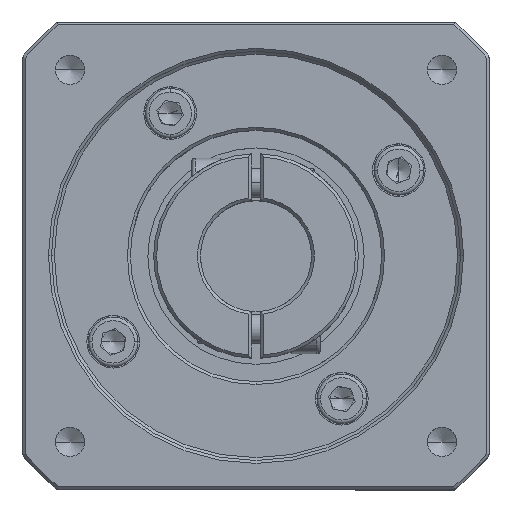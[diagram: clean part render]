
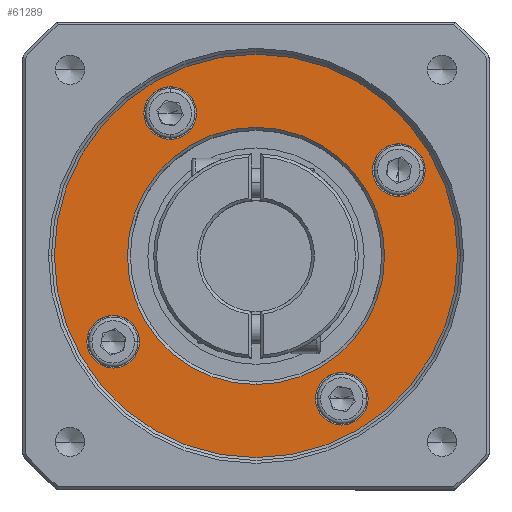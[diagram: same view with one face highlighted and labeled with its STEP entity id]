
A CAD part, top view. The second image highlights one B-rep face of the part: STEP entity #61289.
In plain terms, the highlighted planar face has unit normal (0, 0, 1).
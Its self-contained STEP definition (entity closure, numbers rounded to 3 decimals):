
#144 = DIRECTION ( 'NONE',  ( 1., 0., 0. ) ) ;
#534 = DIRECTION ( 'NONE',  ( 0., -1., 0. ) ) ;
#589 = AXIS2_PLACEMENT_3D ( 'NONE', #84031, #37563, #91883 ) ;
#3397 = CARTESIAN_POINT ( 'NONE',  ( 8.13, 4.341, 195.002 ) ) ;
#4977 = AXIS2_PLACEMENT_3D ( 'NONE', #67821, #21191, #75645 ) ;
#5046 = EDGE_LOOP ( 'NONE', ( #38179, #36013 ) ) ;
#6238 = VERTEX_POINT ( 'NONE', #89795 ) ;
#6575 = DIRECTION ( 'NONE',  ( 1., 0., 0. ) ) ;
#7353 = ORIENTED_EDGE ( 'NONE', *, *, #85337, .T. ) ;
#7918 = FACE_BOUND ( 'NONE', #15106, .T. ) ;
#8034 = AXIS2_PLACEMENT_3D ( 'NONE', #28484, #82854, #36361 ) ;
#8614 = EDGE_CURVE ( 'NONE', #76360, #63895, #82703, .T. ) ;
#10366 = FACE_OUTER_BOUND ( 'NONE', #49890, .T. ) ;
#11725 = CIRCLE ( 'NONE', #28425, 4.5 ) ;
#11963 = CARTESIAN_POINT ( 'NONE',  ( -1.94, 19.019, 195.002 ) ) ;
#12110 = CIRCLE ( 'NONE', #76287, 4.5 ) ;
#12755 = CARTESIAN_POINT ( 'NONE',  ( -45.548, 28.77, 195.002 ) ) ;
#13388 = DIRECTION ( 'NONE',  ( 0., 0., -1. ) ) ;
#13967 = CIRCLE ( 'NONE', #8034, 4.5 ) ;
#14125 = EDGE_CURVE ( 'NONE', #71338, #91215, #88114, .T. ) ;
#14142 = VERTEX_POINT ( 'NONE', #81575 ) ;
#14169 = VERTEX_POINT ( 'NONE', #73813 ) ;
#15043 = DIRECTION ( 'NONE',  ( 0., 0., -1. ) ) ;
#15106 = EDGE_LOOP ( 'NONE', ( #68691, #48746 ) ) ;
#16392 = CARTESIAN_POINT ( 'NONE',  ( -46.299, -10.338, 195.002 ) ) ;
#16547 = CIRCLE ( 'NONE', #29477, 4.5 ) ;
#16995 = VERTEX_POINT ( 'NONE', #12755 ) ;
#19554 = CARTESIAN_POINT ( 'NONE',  ( -26.37, 26.341, 195.002 ) ) ;
#19749 = DIRECTION ( 'NONE',  ( 1., 0., 0. ) ) ;
#21191 = DIRECTION ( 'NONE',  ( 0., 0., -1. ) ) ;
#22553 = ORIENTED_EDGE ( 'NONE', *, *, #55084, .T. ) ;
#23528 = CARTESIAN_POINT ( 'NONE',  ( -16.191, -20.088, 195.002 ) ) ;
#23950 = EDGE_CURVE ( 'NONE', #14142, #96227, #90041, .T. ) ;
#28253 = ORIENTED_EDGE ( 'NONE', *, *, #14125, .T. ) ;
#28425 = AXIS2_PLACEMENT_3D ( 'NONE', #36244, #90546, #44066 ) ;
#28484 = CARTESIAN_POINT ( 'NONE',  ( -11.691, -20.088, 195.002 ) ) ;
#28581 = FACE_BOUND ( 'NONE', #74154, .T. ) ;
#29477 = AXIS2_PLACEMENT_3D ( 'NONE', #99630, #53147, #6575 ) ;
#30967 = CARTESIAN_POINT ( 'NONE',  ( -11.691, -20.088, 195.002 ) ) ;
#33741 = CARTESIAN_POINT ( 'NONE',  ( -6.44, 19.019, 195.002 ) ) ;
#33870 = EDGE_CURVE ( 'NONE', #63895, #76360, #66233, .T. ) ;
#34546 = ORIENTED_EDGE ( 'NONE', *, *, #88515, .T. ) ;
#36013 = ORIENTED_EDGE ( 'NONE', *, *, #63060, .T. ) ;
#36244 = CARTESIAN_POINT ( 'NONE',  ( -41.048, 28.77, 195.002 ) ) ;
#36298 = AXIS2_PLACEMENT_3D ( 'NONE', #93612, #47144, #534 ) ;
#36361 = DIRECTION ( 'NONE',  ( 1., 0., 0. ) ) ;
#37563 = DIRECTION ( 'NONE',  ( 0., 0., 1. ) ) ;
#38179 = ORIENTED_EDGE ( 'NONE', *, *, #54883, .T. ) ;
#38337 = AXIS2_PLACEMENT_3D ( 'NONE', #42582, #96895, #50388 ) ;
#38776 = DIRECTION ( 'NONE',  ( 1., 0., 0. ) ) ;
#41038 = ORIENTED_EDGE ( 'NONE', *, *, #93456, .T. ) ;
#42455 = VERTEX_POINT ( 'NONE', #16392 ) ;
#42582 = CARTESIAN_POINT ( 'NONE',  ( -1.94, 19.019, 195.002 ) ) ;
#44066 = DIRECTION ( 'NONE',  ( 1., 0., 0. ) ) ;
#44159 = CARTESIAN_POINT ( 'NONE',  ( -36.548, 28.77, 195.002 ) ) ;
#44799 = CARTESIAN_POINT ( 'NONE',  ( -26.37, 4.341, 195.002 ) ) ;
#46761 = DIRECTION ( 'NONE',  ( 0., 0., 1. ) ) ;
#47144 = DIRECTION ( 'NONE',  ( 0., 0., -1. ) ) ;
#47414 = CIRCLE ( 'NONE', #88298, 34.5 ) ;
#48746 = ORIENTED_EDGE ( 'NONE', *, *, #33870, .T. ) ;
#49628 = AXIS2_PLACEMENT_3D ( 'NONE', #61629, #15043, #69411 ) ;
#49890 = EDGE_LOOP ( 'NONE', ( #22553, #95256 ) ) ;
#50388 = DIRECTION ( 'NONE',  ( 1., 0., 0. ) ) ;
#52569 = DIRECTION ( 'NONE',  ( 1., 0., 0. ) ) ;
#53147 = DIRECTION ( 'NONE',  ( 0., 0., -1. ) ) ;
#54883 = EDGE_CURVE ( 'NONE', #42455, #6238, #99662, .T. ) ;
#55084 = EDGE_CURVE ( 'NONE', #96227, #14142, #47414, .T. ) ;
#58004 = EDGE_CURVE ( 'NONE', #91215, #71338, #12110, .T. ) ;
#59964 = CARTESIAN_POINT ( 'NONE',  ( -26.37, 4.341, 195.002 ) ) ;
#60379 = EDGE_LOOP ( 'NONE', ( #41038, #73053 ) ) ;
#61289 = ADVANCED_FACE ( 'NONE', ( #7918, #10366, #90598, #28581, #88169, #67553 ), #91543, .T. ) ;
#61629 = CARTESIAN_POINT ( 'NONE',  ( -41.048, 28.77, 195.002 ) ) ;
#61882 = ORIENTED_EDGE ( 'NONE', *, *, #58004, .T. ) ;
#63060 = EDGE_CURVE ( 'NONE', #6238, #42455, #16547, .T. ) ;
#63542 = EDGE_CURVE ( 'NONE', #94285, #14169, #13967, .T. ) ;
#63895 = VERTEX_POINT ( 'NONE', #19554 ) ;
#66233 = CIRCLE ( 'NONE', #36298, 22. ) ;
#66382 = DIRECTION ( 'NONE',  ( 0., 0., -1. ) ) ;
#67553 = FACE_BOUND ( 'NONE', #86889, .T. ) ;
#67777 = DIRECTION ( 'NONE',  ( 0., -1., 0. ) ) ;
#67821 = CARTESIAN_POINT ( 'NONE',  ( -50.799, -10.338, 195.002 ) ) ;
#68691 = ORIENTED_EDGE ( 'NONE', *, *, #8614, .T. ) ;
#69411 = DIRECTION ( 'NONE',  ( 1., 0., 0. ) ) ;
#71338 = VERTEX_POINT ( 'NONE', #79022 ) ;
#73053 = ORIENTED_EDGE ( 'NONE', *, *, #63542, .T. ) ;
#73425 = AXIS2_PLACEMENT_3D ( 'NONE', #59964, #13388, #67777 ) ;
#73813 = CARTESIAN_POINT ( 'NONE',  ( -7.191, -20.088, 195.002 ) ) ;
#74154 = EDGE_LOOP ( 'NONE', ( #28253, #61882 ) ) ;
#75645 = DIRECTION ( 'NONE',  ( 1., 0., 0. ) ) ;
#76287 = AXIS2_PLACEMENT_3D ( 'NONE', #11963, #66382, #19749 ) ;
#76360 = VERTEX_POINT ( 'NONE', #93186 ) ;
#78477 = AXIS2_PLACEMENT_3D ( 'NONE', #44799, #99067, #52569 ) ;
#79022 = CARTESIAN_POINT ( 'NONE',  ( 2.56, 19.019, 195.002 ) ) ;
#81575 = CARTESIAN_POINT ( 'NONE',  ( -60.87, 4.341, 195.002 ) ) ;
#82703 = CIRCLE ( 'NONE', #73425, 22. ) ;
#82854 = DIRECTION ( 'NONE',  ( 0., 0., -1. ) ) ;
#83657 = AXIS2_PLACEMENT_3D ( 'NONE', #30967, #85279, #38776 ) ;
#84031 = CARTESIAN_POINT ( 'NONE',  ( -26.37, 4.341, 195.002 ) ) ;
#85279 = DIRECTION ( 'NONE',  ( 0., 0., -1. ) ) ;
#85337 = EDGE_CURVE ( 'NONE', #16995, #93941, #90778, .T. ) ;
#86889 = EDGE_LOOP ( 'NONE', ( #34546, #7353 ) ) ;
#88114 = CIRCLE ( 'NONE', #38337, 4.5 ) ;
#88169 = FACE_BOUND ( 'NONE', #5046, .T. ) ;
#88298 = AXIS2_PLACEMENT_3D ( 'NONE', #93238, #46761, #144 ) ;
#88515 = EDGE_CURVE ( 'NONE', #93941, #16995, #11725, .T. ) ;
#89795 = CARTESIAN_POINT ( 'NONE',  ( -55.299, -10.338, 195.002 ) ) ;
#90041 = CIRCLE ( 'NONE', #78477, 34.5 ) ;
#90546 = DIRECTION ( 'NONE',  ( 0., 0., -1. ) ) ;
#90598 = FACE_BOUND ( 'NONE', #60379, .T. ) ;
#90778 = CIRCLE ( 'NONE', #49628, 4.5 ) ;
#91215 = VERTEX_POINT ( 'NONE', #33741 ) ;
#91543 = PLANE ( 'NONE',  #589 ) ;
#91883 = DIRECTION ( 'NONE',  ( 1., 0., 0. ) ) ;
#93182 = CIRCLE ( 'NONE', #83657, 4.5 ) ;
#93186 = CARTESIAN_POINT ( 'NONE',  ( -26.37, -17.659, 195.002 ) ) ;
#93238 = CARTESIAN_POINT ( 'NONE',  ( -26.37, 4.341, 195.002 ) ) ;
#93456 = EDGE_CURVE ( 'NONE', #14169, #94285, #93182, .T. ) ;
#93612 = CARTESIAN_POINT ( 'NONE',  ( -26.37, 4.341, 195.002 ) ) ;
#93941 = VERTEX_POINT ( 'NONE', #44159 ) ;
#94285 = VERTEX_POINT ( 'NONE', #23528 ) ;
#95256 = ORIENTED_EDGE ( 'NONE', *, *, #23950, .T. ) ;
#96227 = VERTEX_POINT ( 'NONE', #3397 ) ;
#96895 = DIRECTION ( 'NONE',  ( 0., 0., -1. ) ) ;
#99067 = DIRECTION ( 'NONE',  ( 0., 0., 1. ) ) ;
#99630 = CARTESIAN_POINT ( 'NONE',  ( -50.799, -10.338, 195.002 ) ) ;
#99662 = CIRCLE ( 'NONE', #4977, 4.5 ) ;
